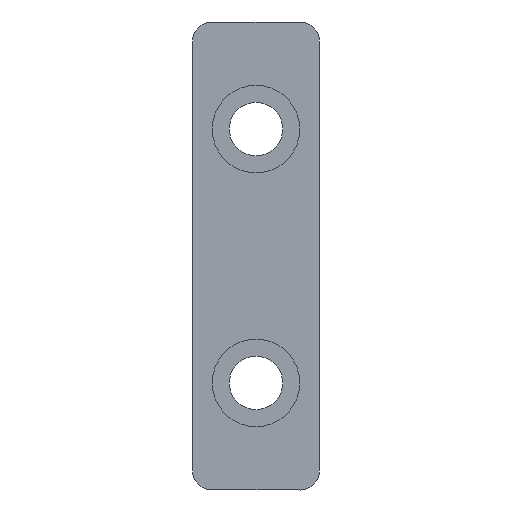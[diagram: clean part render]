
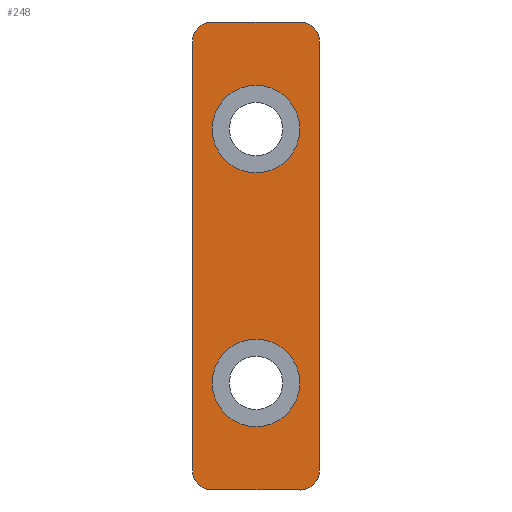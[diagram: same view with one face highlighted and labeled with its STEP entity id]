
A CAD part, left-side view. The second image highlights one B-rep face of the part: STEP entity #248.
In plain terms, the highlighted planar face has unit normal (-1, 0, 0).
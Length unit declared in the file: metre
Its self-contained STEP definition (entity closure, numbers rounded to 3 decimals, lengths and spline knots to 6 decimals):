
#20=LINE('',#396,#36);
#21=LINE('',#400,#37);
#22=LINE('',#404,#38);
#23=LINE('',#408,#39);
#36=VECTOR('',#315,1.);
#37=VECTOR('',#318,1.);
#38=VECTOR('',#321,1.);
#39=VECTOR('',#324,1.);
#52=ORIENTED_EDGE('',*,*,#116,.T.);
#53=ORIENTED_EDGE('',*,*,#117,.T.);
#54=ORIENTED_EDGE('',*,*,#118,.T.);
#55=ORIENTED_EDGE('',*,*,#119,.T.);
#56=ORIENTED_EDGE('',*,*,#120,.T.);
#57=ORIENTED_EDGE('',*,*,#121,.T.);
#58=ORIENTED_EDGE('',*,*,#122,.T.);
#59=ORIENTED_EDGE('',*,*,#123,.T.);
#60=ORIENTED_EDGE('',*,*,#124,.F.);
#61=ORIENTED_EDGE('',*,*,#125,.F.);
#116=EDGE_CURVE('',#148,#149,#172,.T.);
#117=EDGE_CURVE('',#149,#150,#20,.T.);
#118=EDGE_CURVE('',#150,#151,#173,.T.);
#119=EDGE_CURVE('',#151,#152,#21,.T.);
#120=EDGE_CURVE('',#152,#153,#174,.T.);
#121=EDGE_CURVE('',#153,#154,#22,.T.);
#122=EDGE_CURVE('',#154,#155,#175,.T.);
#123=EDGE_CURVE('',#155,#148,#23,.T.);
#124=EDGE_CURVE('',#156,#156,#176,.T.);
#125=EDGE_CURVE('',#157,#157,#177,.T.);
#148=VERTEX_POINT('',#394);
#149=VERTEX_POINT('',#395);
#150=VERTEX_POINT('',#397);
#151=VERTEX_POINT('',#399);
#152=VERTEX_POINT('',#401);
#153=VERTEX_POINT('',#403);
#154=VERTEX_POINT('',#405);
#155=VERTEX_POINT('',#407);
#156=VERTEX_POINT('',#410);
#157=VERTEX_POINT('',#412);
#172=CIRCLE('',#278,0.0015);
#173=CIRCLE('',#279,0.0015);
#174=CIRCLE('',#280,0.0015);
#175=CIRCLE('',#281,0.0015);
#176=CIRCLE('',#282,0.00345);
#177=CIRCLE('',#283,0.00345);
#188=EDGE_LOOP('',(#52,#53,#54,#55,#56,#57,#58,#59));
#189=EDGE_LOOP('',(#60));
#190=EDGE_LOOP('',(#61));
#214=FACE_BOUND('',#188,.T.);
#215=FACE_BOUND('',#189,.T.);
#216=FACE_BOUND('',#190,.T.);
#240=PLANE('',#277);
#248=ADVANCED_FACE('',(#214,#215,#216),#240,.F.);
#277=AXIS2_PLACEMENT_3D('',#392,#311,#312);
#278=AXIS2_PLACEMENT_3D('',#393,#313,#314);
#279=AXIS2_PLACEMENT_3D('',#398,#316,#317);
#280=AXIS2_PLACEMENT_3D('',#402,#319,#320);
#281=AXIS2_PLACEMENT_3D('',#406,#322,#323);
#282=AXIS2_PLACEMENT_3D('',#409,#325,#326);
#283=AXIS2_PLACEMENT_3D('',#411,#327,#328);
#311=DIRECTION('',(1.,0.,0.));
#312=DIRECTION('',(0.,0.,-1.));
#313=DIRECTION('',(-1.,0.,0.));
#314=DIRECTION('',(0.,0.,-1.));
#315=DIRECTION('',(0.,0.,-1.));
#316=DIRECTION('',(-1.,0.,0.));
#317=DIRECTION('',(0.,0.,-1.));
#318=DIRECTION('',(0.,-1.,0.));
#319=DIRECTION('',(-1.,0.,0.));
#320=DIRECTION('',(0.,0.,-1.));
#321=DIRECTION('',(0.,0.,1.));
#322=DIRECTION('',(-1.,0.,0.));
#323=DIRECTION('',(0.,0.,1.));
#324=DIRECTION('',(0.,1.,0.));
#325=DIRECTION('',(-1.,0.,0.));
#326=DIRECTION('',(0.,0.,-1.));
#327=DIRECTION('',(-1.,0.,0.));
#328=DIRECTION('',(0.,0.,-1.));
#392=CARTESIAN_POINT('',(-0.302042,-0.02204,-0.196447));
#393=CARTESIAN_POINT('',(-0.302042,-0.02204,-0.196447));
#394=CARTESIAN_POINT('',(-0.302042,-0.02204,-0.194947));
#395=CARTESIAN_POINT('',(-0.302042,-0.02054,-0.196447));
#396=CARTESIAN_POINT('',(-0.302042,-0.02054,-0.196447));
#397=CARTESIAN_POINT('',(-0.302042,-0.02054,-0.230327));
#398=CARTESIAN_POINT('',(-0.302042,-0.02204,-0.230327));
#399=CARTESIAN_POINT('',(-0.302042,-0.02204,-0.231827));
#400=CARTESIAN_POINT('',(-0.302042,-0.02204,-0.231827));
#401=CARTESIAN_POINT('',(-0.302042,-0.02904,-0.231827));
#402=CARTESIAN_POINT('',(-0.302042,-0.02904,-0.230327));
#403=CARTESIAN_POINT('',(-0.302042,-0.03054,-0.230327));
#404=CARTESIAN_POINT('',(-0.302042,-0.03054,-0.230327));
#405=CARTESIAN_POINT('',(-0.302042,-0.03054,-0.196447));
#406=CARTESIAN_POINT('',(-0.302042,-0.02904,-0.196447));
#407=CARTESIAN_POINT('',(-0.302042,-0.02904,-0.194947));
#408=CARTESIAN_POINT('',(-0.302042,-0.02904,-0.194947));
#409=CARTESIAN_POINT('',(-0.302042,-0.02554,-0.203387));
#410=CARTESIAN_POINT('',(-0.302042,-0.02554,-0.206837));
#411=CARTESIAN_POINT('',(-0.302042,-0.02554,-0.223387));
#412=CARTESIAN_POINT('',(-0.302042,-0.02554,-0.226837));
